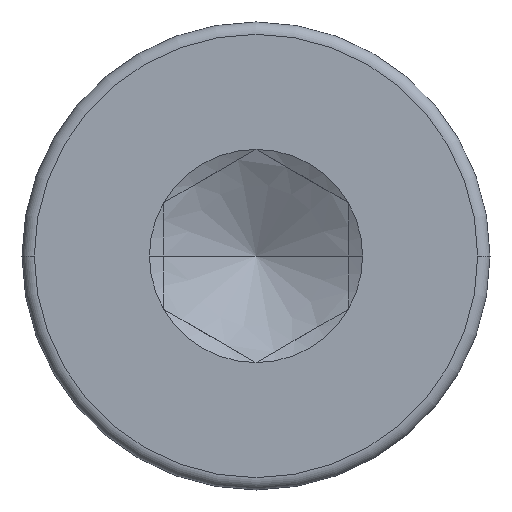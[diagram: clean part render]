
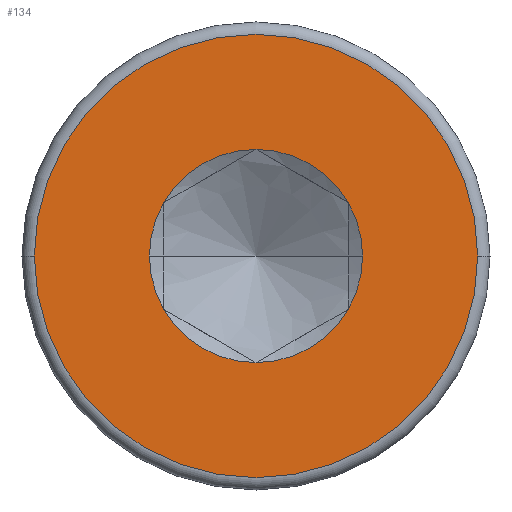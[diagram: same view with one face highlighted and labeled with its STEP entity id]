
A CAD part, left-side view. The second image highlights one B-rep face of the part: STEP entity #134.
In plain terms, the highlighted planar face has unit normal (-1, 0, 0).
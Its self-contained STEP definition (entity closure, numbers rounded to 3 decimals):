
#90=FACE_BOUND('',#206,.F.);
#101=PLANE('',#615);
#134=ADVANCED_FACE('',(#90,#169),#101,.T.);
#169=FACE_OUTER_BOUND('',#207,.F.);
#206=EDGE_LOOP('',(#330,#331,#332,#333,#334,#335,#336,#337));
#207=EDGE_LOOP('',(#338,#339));
#330=ORIENTED_EDGE('',*,*,#460,.T.);
#331=ORIENTED_EDGE('',*,*,#459,.T.);
#332=ORIENTED_EDGE('',*,*,#458,.T.);
#333=ORIENTED_EDGE('',*,*,#465,.T.);
#334=ORIENTED_EDGE('',*,*,#464,.T.);
#335=ORIENTED_EDGE('',*,*,#463,.T.);
#336=ORIENTED_EDGE('',*,*,#462,.T.);
#337=ORIENTED_EDGE('',*,*,#461,.T.);
#338=ORIENTED_EDGE('',*,*,#473,.F.);
#339=ORIENTED_EDGE('',*,*,#466,.F.);
#458=EDGE_CURVE('',#544,#531,#492,.T.);
#459=EDGE_CURVE('',#545,#544,#493,.T.);
#460=EDGE_CURVE('',#546,#545,#494,.T.);
#461=EDGE_CURVE('',#532,#546,#495,.T.);
#462=EDGE_CURVE('',#547,#532,#496,.T.);
#463=EDGE_CURVE('',#541,#547,#497,.T.);
#464=EDGE_CURVE('',#542,#541,#498,.T.);
#465=EDGE_CURVE('',#531,#542,#499,.T.);
#466=EDGE_CURVE('',#521,#520,#500,.T.);
#473=EDGE_CURVE('',#520,#521,#505,.T.);
#492=CIRCLE('',#575,0.866);
#493=CIRCLE('',#576,0.866);
#494=CIRCLE('',#577,0.866);
#495=CIRCLE('',#578,0.866);
#496=CIRCLE('',#579,0.866);
#497=CIRCLE('',#580,0.866);
#498=CIRCLE('',#581,0.866);
#499=CIRCLE('',#582,0.866);
#500=CIRCLE('',#583,1.8);
#505=CIRCLE('',#588,1.8);
#520=VERTEX_POINT('',#817);
#521=VERTEX_POINT('',#818);
#531=VERTEX_POINT('',#828);
#532=VERTEX_POINT('',#829);
#541=VERTEX_POINT('',#838);
#542=VERTEX_POINT('',#839);
#544=VERTEX_POINT('',#841);
#545=VERTEX_POINT('',#842);
#546=VERTEX_POINT('',#843);
#547=VERTEX_POINT('',#844);
#575=AXIS2_PLACEMENT_3D('',#964,#690,#691);
#576=AXIS2_PLACEMENT_3D('',#965,#692,#693);
#577=AXIS2_PLACEMENT_3D('',#966,#694,#695);
#578=AXIS2_PLACEMENT_3D('',#967,#696,#697);
#579=AXIS2_PLACEMENT_3D('',#968,#698,#699);
#580=AXIS2_PLACEMENT_3D('',#969,#700,#701);
#581=AXIS2_PLACEMENT_3D('',#970,#702,#703);
#582=AXIS2_PLACEMENT_3D('',#971,#704,#705);
#583=AXIS2_PLACEMENT_3D('',#972,#706,#707);
#588=AXIS2_PLACEMENT_3D('',#979,#718,#719);
#615=AXIS2_PLACEMENT_3D('',#1006,#772,#773);
#690=DIRECTION('',(-1.,0.,0.));
#691=DIRECTION('',(0.,0.866,0.5));
#692=DIRECTION('',(-1.,0.,0.));
#693=DIRECTION('',(0.,0.,1.));
#694=DIRECTION('',(-1.,0.,0.));
#695=DIRECTION('',(0.,-0.866,0.5));
#696=DIRECTION('',(-1.,0.,0.));
#697=DIRECTION('',(0.,-1.,0.));
#698=DIRECTION('',(-1.,0.,0.));
#699=DIRECTION('',(0.,-0.866,-0.5));
#700=DIRECTION('',(-1.,0.,0.));
#701=DIRECTION('',(0.,0.,-1.));
#702=DIRECTION('',(-1.,0.,0.));
#703=DIRECTION('',(0.,0.867,-0.499));
#704=DIRECTION('',(-1.,0.,0.));
#705=DIRECTION('',(0.,1.,0.));
#706=DIRECTION('',(-1.,0.,0.));
#707=DIRECTION('',(0.,1.,0.));
#718=DIRECTION('',(-1.,0.,0.));
#719=DIRECTION('',(0.,-1.,0.));
#772=DIRECTION('',(-1.,0.,0.));
#773=DIRECTION('',(0.,0.,1.));
#817=CARTESIAN_POINT('',(-2.,-1.8,0.));
#818=CARTESIAN_POINT('',(-2.,1.8,0.));
#828=CARTESIAN_POINT('',(-2.,0.866,0.));
#829=CARTESIAN_POINT('',(-2.,-0.866,0.));
#838=CARTESIAN_POINT('',(-2.,0.,-0.865));
#839=CARTESIAN_POINT('',(-2.,0.75,-0.433));
#841=CARTESIAN_POINT('',(-2.,0.75,0.433));
#842=CARTESIAN_POINT('',(-2.,0.,0.865));
#843=CARTESIAN_POINT('',(-2.,-0.75,0.433));
#844=CARTESIAN_POINT('',(-2.,-0.75,-0.433));
#964=CARTESIAN_POINT('',(-2.,0.,0.));
#965=CARTESIAN_POINT('',(-2.,0.,0.));
#966=CARTESIAN_POINT('',(-2.,0.,0.));
#967=CARTESIAN_POINT('',(-2.,0.,0.));
#968=CARTESIAN_POINT('',(-2.,0.,0.));
#969=CARTESIAN_POINT('',(-2.,0.,0.));
#970=CARTESIAN_POINT('',(-2.,0.,0.));
#971=CARTESIAN_POINT('',(-2.,0.,0.));
#972=CARTESIAN_POINT('',(-2.,0.,0.));
#979=CARTESIAN_POINT('',(-2.,0.,0.));
#1006=CARTESIAN_POINT('',(-2.,-1.836,-1.836));
